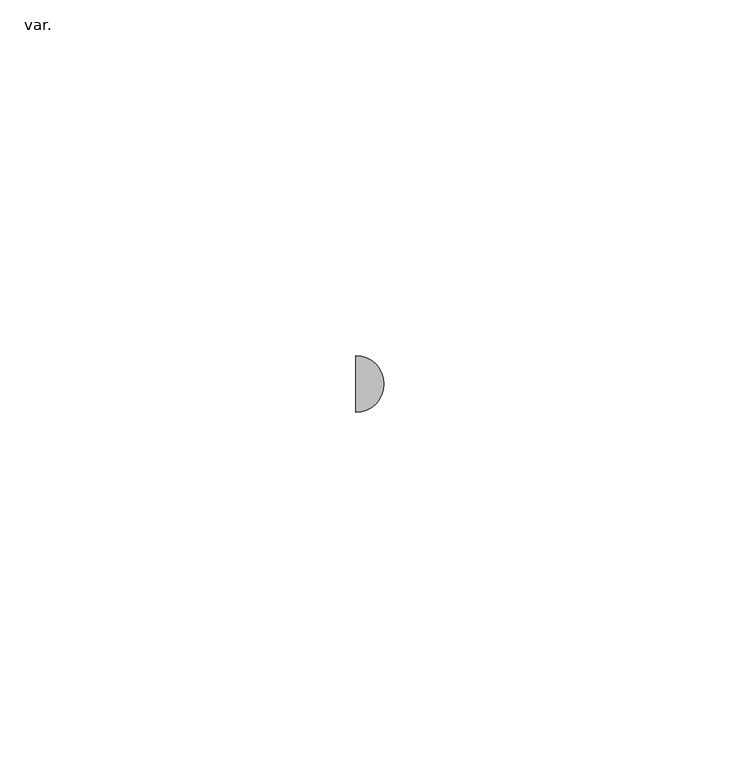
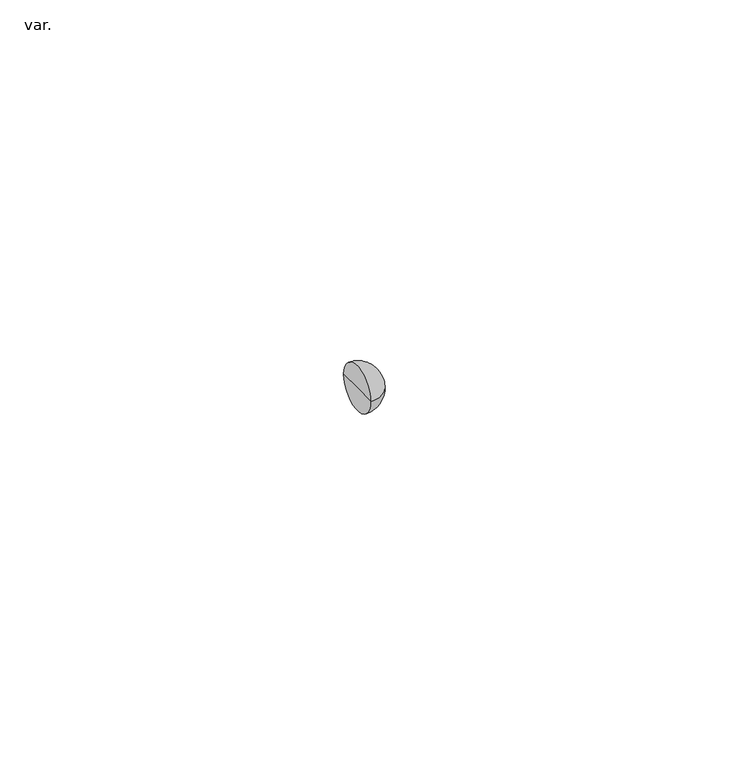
"""IFC4 building model written with IfcOpenShell, lengths in millimetres: pipe fitting geometry, NLRS_52_PIF_UN_Vacurain Flex multi bocht_Dyka : var.."""

from ifc_helpers import new_model, si_unit, point, frame, origin, place, context, project, spatial, circle_curve, ellipse_curve, trimmed, source, transform, mapped, element, save
from ifc_brep_helpers import plane_surface, revolved_surface, advanced_brep


def var_8f0a1fe7(model_context):
    return source(origin(), model_context, "Body", "AdvancedBrep", [
        advanced_brep(
        [(-29.0, -4.0, 0.0), (-29.0, 4.0, 0.0), (-25.0, 0.0, 0.0), (-29.0, 0.0, 0.0)],
        [
            (0, 1, circle_curve(frame((-29.0, 0.0, 0.0), z_axis=(1.0, 0.0, 0.0), x_axis=(0.0, 1.0, 0.0)), 4.0)),
            (1, 2, circle_curve(frame((-29.0, 0.0, 0.0), z_axis=(0.0, 0.0, -1.0), x_axis=(1.0, 0.0, 0.0)), 4.0)),
            (2, 0, circle_curve(frame((-29.0, 0.0, 0.0), z_axis=(0.0, 0.0, -1.0), x_axis=(1.0, 0.0, 0.0)), 4.0)),
            (1, 0, circle_curve(frame((-29.0, 0.0, 0.0), z_axis=(1.0, 0.0, 0.0), x_axis=(0.0, 1.0, 0.0)), 4.0)),
            (3, 1),
            (0, 3),
        ],
        [
            revolved_surface(trimmed(ellipse_curve(frame((-29.0, 0.0, 0.0), z_axis=(0.0, 0.0, 1.0), x_axis=(1.0, 0.0, 0.0)), 4.0, 4.0), [point((-25.0, 0.0, 0.0))], [point((-29.0, 4.0, 0.0))], True, "CARTESIAN"), (-27.0, 0.0, 0.0), (-1.0, 0.0, 0.0)),
            plane_surface(frame((-29.0, 0.0, 0.0), z_axis=(-1.0, 0.0, 0.0), x_axis=(0.0, 1.0, 0.0))),
        ],
        [
            (0, [[1, 2, 3]]),
            (0, [[4, -3, -2]]),
            (1, [[5, -1, 6]]),
            (1, [[-6, -4, -5]]),
        ],
    ),
    ])


if __name__ == "__main__":
    model = new_model("IFC4")
    model_context = context("Model", 3, world=origin())
    ifc_project = project(units=[si_unit("LENGTHUNIT", "METRE", prefix="MILLI")], contexts=[model_context])
    site = spatial("IfcSite", under=ifc_project)
    building = spatial("IfcBuilding", under=site)
    placement = place(None, origin())
    var_shape = var_8f0a1fe7(model_context)
    element("IfcPipeFitting", 1, ObjectType="NLRS_52_PIF_UN_Vacurain Flex multi bocht_Dyka : var.", at=placement, inside=building, context=model_context, shape_type="MappedRepresentation", body=[
        mapped(var_shape, transform((0.0, 0.0, 0.0), x_axis=(1.0, 0.0, 0.0), y_axis=(0.0, 1.0, 0.0), z_axis=(0.0, 0.0, 1.0))),
    ])
    save(model, "model.ifc")
